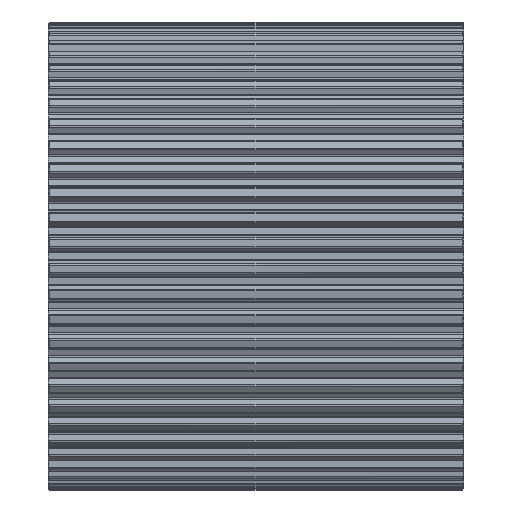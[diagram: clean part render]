
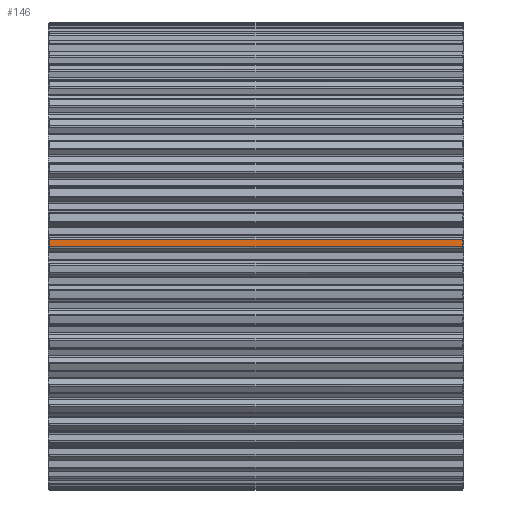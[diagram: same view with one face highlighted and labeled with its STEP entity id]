
A CAD part, front view. The second image highlights one B-rep face of the part: STEP entity #146.
In plain terms, the highlighted cylindrical face has radius 90.22 mm (diameter 180.44 mm), a partial arc.
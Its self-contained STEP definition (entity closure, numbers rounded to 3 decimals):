
#146=ADVANCED_FACE('',(#804),#805,.T.);
#804=FACE_OUTER_BOUND('',#1978,.T.);
#805=CYLINDRICAL_SURFACE('',#1979,90.22);
#1978=EDGE_LOOP('',(#3618,#3619,#3620,#3621));
#1979=AXIS2_PLACEMENT_3D('',#3622,#3623,#3624);
#3618=ORIENTED_EDGE('',*,*,#8621,.T.);
#3619=ORIENTED_EDGE('',*,*,#8622,.T.);
#3620=ORIENTED_EDGE('',*,*,#8623,.T.);
#3621=ORIENTED_EDGE('',*,*,#8624,.T.);
#3622=CARTESIAN_POINT('',(80.0,0.0,0.0));
#3623=DIRECTION('',(1.0,0.0,-0.0));
#3624=DIRECTION('',(0.0,0.055,0.998));
#8621=EDGE_CURVE('',#10713,#10722,#10724,.T.);
#8622=EDGE_CURVE('',#10722,#10725,#10726,.T.);
#8623=EDGE_CURVE('',#10725,#10727,#10728,.T.);
#8624=EDGE_CURVE('',#10727,#10713,#10729,.T.);
#10713=VERTEX_POINT('',#15659);
#10722=VERTEX_POINT('',#15695);
#10724=CIRCLE('',#15706,90.22);
#10725=VERTEX_POINT('',#15707);
#10726=LINE('',#15708,#15709);
#10727=VERTEX_POINT('',#15710);
#10728=CIRCLE('',#15711,90.22);
#10729=LINE('',#15712,#15713);
#15659=CARTESIAN_POINT('',(0.5,-89.989,6.447));
#15695=CARTESIAN_POINT('',(0.5,-90.152,3.491));
#15706=AXIS2_PLACEMENT_3D('',#20987,#20988,#20989);
#15707=CARTESIAN_POINT('',(159.5,-90.152,3.491));
#15708=CARTESIAN_POINT('',(80.0,-90.152,3.491));
#15709=VECTOR('',#20990,1.0);
#15710=CARTESIAN_POINT('',(159.5,-89.989,6.447));
#15711=AXIS2_PLACEMENT_3D('',#20991,#20992,#20993);
#15712=CARTESIAN_POINT('',(80.0,-89.989,6.447));
#15713=VECTOR('',#20994,1.0);
#20987=CARTESIAN_POINT('',(0.5,0.0,0.0));
#20988=DIRECTION('',(1.0,0.,0.));
#20989=DIRECTION('',(0.,0.055,0.998));
#20990=DIRECTION('',(1.0,0.0,0.0));
#20991=CARTESIAN_POINT('',(159.5,0.0,0.0));
#20992=DIRECTION('',(-1.0,0.0,0.0));
#20993=DIRECTION('',(0.0,0.055,0.998));
#20994=DIRECTION('',(-1.0,0.0,0.0));
